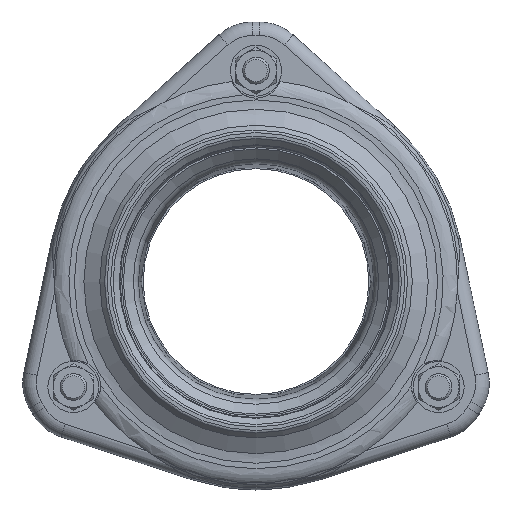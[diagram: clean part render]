
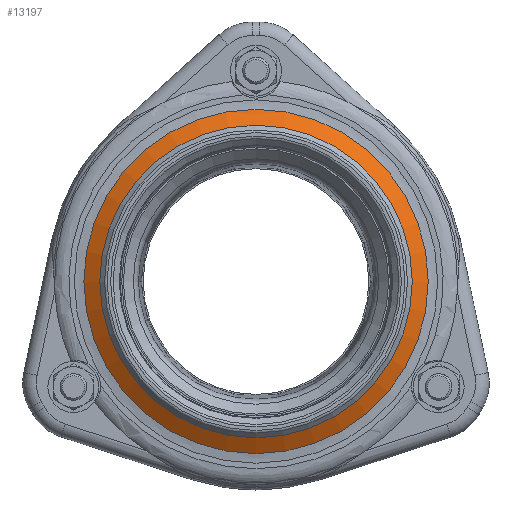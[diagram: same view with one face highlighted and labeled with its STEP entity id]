
A CAD part, left-side view. The second image highlights one B-rep face of the part: STEP entity #13197.
In plain terms, the highlighted free-form (B-spline) face has degree [2, 2] with [5, 9] control points.
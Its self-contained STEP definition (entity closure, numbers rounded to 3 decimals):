
#13115=CARTESIAN_POINT('',(-256.817,-0.013,91.891));
#13116=VERTEX_POINT('',#13115);
#13117=CARTESIAN_POINT('',(-256.817,0.,0.));
#13118=DIRECTION('',(1.,0.,0.));
#13119=DIRECTION('',(0.,0.,1.));
#13120=AXIS2_PLACEMENT_3D('',#13117,#13118,#13119);
#13121=CIRCLE('',#13120,91.891);
#13122=EDGE_CURVE('',#13116,#13116,#13121,.T.);
#13130=CARTESIAN_POINT('',(-256.817,122.099,0.017));
#13131=CARTESIAN_POINT('',(-250.091,116.045,0.016));
#13132=CARTESIAN_POINT('',(-250.091,106.995,0.015));
#13133=CARTESIAN_POINT('',(-250.091,97.945,0.014));
#13134=CARTESIAN_POINT('',(-256.817,91.891,0.013));
#13135=CARTESIAN_POINT('',(-256.817,122.082,122.117));
#13136=CARTESIAN_POINT('',(-250.091,116.029,116.062));
#13137=CARTESIAN_POINT('',(-250.091,106.98,107.01));
#13138=CARTESIAN_POINT('',(-250.091,97.931,97.959));
#13139=CARTESIAN_POINT('',(-256.817,91.878,91.904));
#13140=CARTESIAN_POINT('',(-256.817,-0.017,122.099));
#13141=CARTESIAN_POINT('',(-250.091,-0.016,116.045));
#13142=CARTESIAN_POINT('',(-250.091,-0.015,106.995));
#13143=CARTESIAN_POINT('',(-250.091,-0.014,97.945));
#13144=CARTESIAN_POINT('',(-256.817,-0.013,91.891));
#13145=CARTESIAN_POINT('',(-256.817,-122.117,122.082));
#13146=CARTESIAN_POINT('',(-250.091,-116.062,116.029));
#13147=CARTESIAN_POINT('',(-250.091,-107.01,106.98));
#13148=CARTESIAN_POINT('',(-250.091,-97.959,97.931));
#13149=CARTESIAN_POINT('',(-256.817,-91.904,91.878));
#13150=CARTESIAN_POINT('',(-256.817,-122.099,-0.017));
#13151=CARTESIAN_POINT('',(-250.091,-116.045,-0.016));
#13152=CARTESIAN_POINT('',(-250.091,-106.995,-0.015));
#13153=CARTESIAN_POINT('',(-250.091,-97.945,-0.014));
#13154=CARTESIAN_POINT('',(-256.817,-91.891,-0.013));
#13155=CARTESIAN_POINT('',(-256.817,-122.082,-122.117));
#13156=CARTESIAN_POINT('',(-250.091,-116.029,-116.062));
#13157=CARTESIAN_POINT('',(-250.091,-106.98,-107.01));
#13158=CARTESIAN_POINT('',(-250.091,-97.931,-97.959));
#13159=CARTESIAN_POINT('',(-256.817,-91.878,-91.904));
#13160=CARTESIAN_POINT('',(-256.817,0.017,-122.099));
#13161=CARTESIAN_POINT('',(-250.091,0.016,-116.045));
#13162=CARTESIAN_POINT('',(-250.091,0.015,-106.995));
#13163=CARTESIAN_POINT('',(-250.091,0.014,-97.945));
#13164=CARTESIAN_POINT('',(-256.817,0.013,-91.891));
#13165=CARTESIAN_POINT('',(-256.817,122.117,-122.082));
#13166=CARTESIAN_POINT('',(-250.091,116.062,-116.029));
#13167=CARTESIAN_POINT('',(-250.091,107.01,-106.98));
#13168=CARTESIAN_POINT('',(-250.091,97.959,-97.931));
#13169=CARTESIAN_POINT('',(-256.817,91.904,-91.878));
#13170=CARTESIAN_POINT('',(-256.817,122.099,0.017));
#13171=CARTESIAN_POINT('',(-250.091,116.045,0.016));
#13172=CARTESIAN_POINT('',(-250.091,106.995,0.015));
#13173=CARTESIAN_POINT('',(-250.091,97.945,0.014));
#13174=CARTESIAN_POINT('',(-256.817,91.891,0.013));
#13182=(BOUNDED_SURFACE()B_SPLINE_SURFACE(2,2,((#13130,#13135,#13140,#13145,#13150,#13155,#13160,#13165,#13170),(#13131,#13136,#13141,#13146,#13151,#13156,#13161,#13166,#13171),(#13132,#13137,#13142,#13147,#13152,#13157,#13162,#13167,#13172),(#13133,#13138,#13143,#13148,#13153,#13158,#13163,#13168,#13173),(#13134,#13139,#13144,#13149,#13154,#13159,#13164,#13169,#13174)),.UNSPECIFIED.,.F.,.T.,.U.)B_SPLINE_SURFACE_WITH_KNOTS((3,2,3),(3,2,2,2,3),(0.733,1.571,2.409),(0.0,1.571,3.142,4.712,6.283),.UNSPECIFIED.)GEOMETRIC_REPRESENTATION_ITEM()RATIONAL_B_SPLINE_SURFACE(((1.0,0.707,1.0,0.707,1.0,0.707,1.0,0.707,1.0),(0.914,0.646,0.914,0.646,0.914,0.646,0.914,0.646,0.914),(1.0,0.707,1.0,0.707,1.0,0.707,1.0,0.707,1.0),(0.914,0.646,0.914,0.646,0.914,0.646,0.914,0.646,0.914),(1.0,0.707,1.0,0.707,1.0,0.707,1.0,0.707,1.0)))REPRESENTATION_ITEM('')SURFACE());
#13183=CARTESIAN_POINT('',(-250.92,-0.014,101.248));
#13184=VERTEX_POINT('',#13183);
#13185=CARTESIAN_POINT('',(-250.92,0.,0.));
#13186=DIRECTION('',(1.0,0.,0.));
#13187=DIRECTION('',(0.,0.,1.));
#13188=AXIS2_PLACEMENT_3D('',#13185,#13186,#13187);
#13189=CIRCLE('',#13188,101.248);
#13190=EDGE_CURVE('',#13184,#13184,#13189,.T.);
#13191=ORIENTED_EDGE('',*,*,#13190,.F.);
#13192=EDGE_LOOP('',(#13191));
#13193=FACE_OUTER_BOUND('',#13192,.T.);
#13194=ORIENTED_EDGE('',*,*,#13122,.T.);
#13195=EDGE_LOOP('',(#13194));
#13196=FACE_BOUND('',#13195,.T.);
#13197=ADVANCED_FACE('',(#13193,#13196),#13182,.T.);
